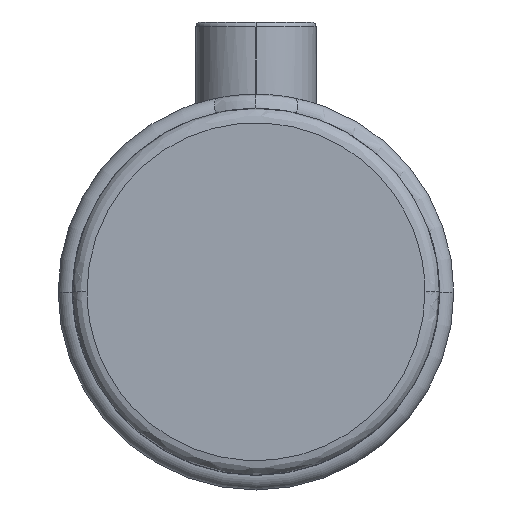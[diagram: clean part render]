
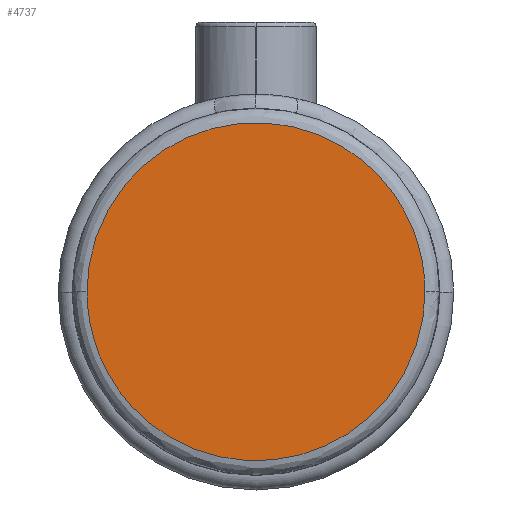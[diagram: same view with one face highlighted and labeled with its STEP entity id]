
A CAD part, top view. The second image highlights one B-rep face of the part: STEP entity #4737.
In plain terms, the highlighted planar face has unit normal (0, 0, 1).
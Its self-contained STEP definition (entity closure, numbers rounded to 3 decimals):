
#33 = CARTESIAN_POINT ( 'NONE',  ( 35.1, 0., 50. ) ) ;
#236 = AXIS2_PLACEMENT_3D ( 'NONE', #7018, #10449, #5344 ) ;
#843 = CARTESIAN_POINT ( 'NONE',  ( -35.1, 0., 50. ) ) ;
#1098 = CARTESIAN_POINT ( 'NONE',  ( -35.1, -70.2, 50. ) ) ;
#1220 = CARTESIAN_POINT ( 'NONE',  ( 35.1, 70.2, 50. ) ) ;
#1246 = ORIENTED_EDGE ( 'NONE', *, *, #6938, .F. ) ;
#2307 = VERTEX_POINT ( 'NONE', #843 ) ;
#2632 = EDGE_CURVE ( 'NONE', #4497, #2307, #9457, .T. ) ;
#3021 = EDGE_LOOP ( 'NONE', ( #4818, #1246 ) ) ;
#4492 = CARTESIAN_POINT ( 'NONE',  ( -35.1, 0., 50. ) ) ;
#4497 = VERTEX_POINT ( 'NONE', #33 ) ;
#4500 = PLANE ( 'NONE',  #236 ) ;
#4737 = ADVANCED_FACE ( 'NONE', ( #7682 ), #4500, .T. ) ;
#4818 = ORIENTED_EDGE ( 'NONE', *, *, #2632, .F. ) ;
#5245 = CARTESIAN_POINT ( 'NONE',  ( 35.1, 0., 50. ) ) ;
#5344 = DIRECTION ( 'NONE',  ( 1., 0., 0. ) ) ;
#6641 =( BOUNDED_CURVE ( )  B_SPLINE_CURVE ( 3, ( #4492, #9639, #1220, #7076 ),
 .UNSPECIFIED., .F., .T. ) 
 B_SPLINE_CURVE_WITH_KNOTS ( ( 4, 4 ),
 ( 0.75, 1.25 ),
 .UNSPECIFIED. ) 
 CURVE ( )  GEOMETRIC_REPRESENTATION_ITEM ( )  RATIONAL_B_SPLINE_CURVE ( ( 1., 0.333, 0.333, 1. ) ) 
 REPRESENTATION_ITEM ( '' )  );
#6938 = EDGE_CURVE ( 'NONE', #2307, #4497, #6641, .T. ) ;
#6952 = CARTESIAN_POINT ( 'NONE',  ( -35.1, 0., 50. ) ) ;
#7018 = CARTESIAN_POINT ( 'NONE',  ( 0., 19.05, 50. ) ) ;
#7076 = CARTESIAN_POINT ( 'NONE',  ( 35.1, 0., 50. ) ) ;
#7682 = FACE_OUTER_BOUND ( 'NONE', #3021, .T. ) ;
#9457 =( BOUNDED_CURVE ( )  B_SPLINE_CURVE ( 3, ( #5245, #9476, #1098, #6952 ),
 .UNSPECIFIED., .F., .T. ) 
 B_SPLINE_CURVE_WITH_KNOTS ( ( 4, 4 ),
 ( 0.25, 0.75 ),
 .UNSPECIFIED. ) 
 CURVE ( )  GEOMETRIC_REPRESENTATION_ITEM ( )  RATIONAL_B_SPLINE_CURVE ( ( 1., 0.333, 0.333, 1. ) ) 
 REPRESENTATION_ITEM ( '' )  );
#9476 = CARTESIAN_POINT ( 'NONE',  ( 35.1, -70.2, 50. ) ) ;
#9639 = CARTESIAN_POINT ( 'NONE',  ( -35.1, 70.2, 50. ) ) ;
#10449 = DIRECTION ( 'NONE',  ( 0., 0., 1. ) ) ;
